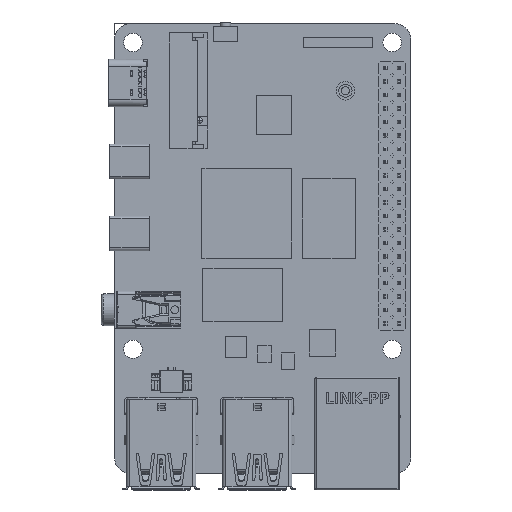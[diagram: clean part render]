
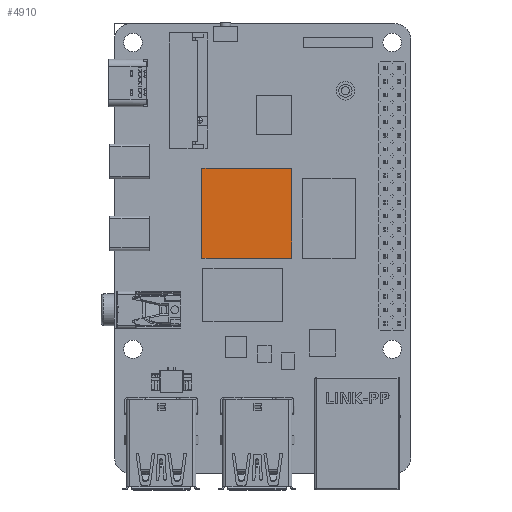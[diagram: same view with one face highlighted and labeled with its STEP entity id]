
A CAD part, top view. The second image highlights one B-rep face of the part: STEP entity #4910.
In plain terms, the highlighted planar face has unit normal (0, 0, 1).
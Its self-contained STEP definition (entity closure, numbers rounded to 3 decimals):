
#2487=DIRECTION('',(0.,-1.,0.));
#2488=VECTOR('',#2487,17.);
#2489=CARTESIAN_POINT('',(-35.961,-23.784,1.2));
#2490=LINE('',#2489,#2488);
#2494=DIRECTION('',(-1.,0.,0.));
#2495=VECTOR('',#2494,17.);
#2496=CARTESIAN_POINT('',(-18.961,-23.784,1.2));
#2497=LINE('',#2496,#2495);
#2501=DIRECTION('',(0.,1.,0.));
#2502=VECTOR('',#2501,17.);
#2503=CARTESIAN_POINT('',(-18.961,-40.784,1.2));
#2504=LINE('',#2503,#2502);
#2508=DIRECTION('',(1.,0.,0.));
#2509=VECTOR('',#2508,17.);
#2510=CARTESIAN_POINT('',(-35.961,-40.784,1.2));
#2511=LINE('',#2510,#2509);
#3247=CARTESIAN_POINT('',(-35.961,-23.784,1.2));
#3248=CARTESIAN_POINT('',(-35.961,-40.784,1.2));
#3249=VERTEX_POINT('',#3247);
#3250=VERTEX_POINT('',#3248);
#3251=CARTESIAN_POINT('',(-18.961,-40.784,1.2));
#3252=VERTEX_POINT('',#3251);
#3253=CARTESIAN_POINT('',(-18.961,-23.784,1.2));
#3254=VERTEX_POINT('',#3253);
#4899=CARTESIAN_POINT('',(0.,0.,1.2));
#4900=DIRECTION('',(0.,0.,1.));
#4901=DIRECTION('',(1.,0.,0.));
#4902=AXIS2_PLACEMENT_3D('',#4899,#4900,#4901);
#4903=PLANE('',#4902);
#4904=ORIENTED_EDGE('',*,*,#4823,.F.);
#4905=ORIENTED_EDGE('',*,*,#4845,.F.);
#4906=ORIENTED_EDGE('',*,*,#4866,.F.);
#4907=ORIENTED_EDGE('',*,*,#4886,.F.);
#4908=EDGE_LOOP('',(#4904,#4905,#4906,#4907));
#4909=FACE_OUTER_BOUND('',#4908,.F.);
#4823=EDGE_CURVE('',#3249,#3250,#2490,.T.);
#4845=EDGE_CURVE('',#3254,#3249,#2497,.T.);
#4866=EDGE_CURVE('',#3252,#3254,#2504,.T.);
#4886=EDGE_CURVE('',#3250,#3252,#2511,.T.);
#4910=ADVANCED_FACE('',(#4909),#4903,.T.);
